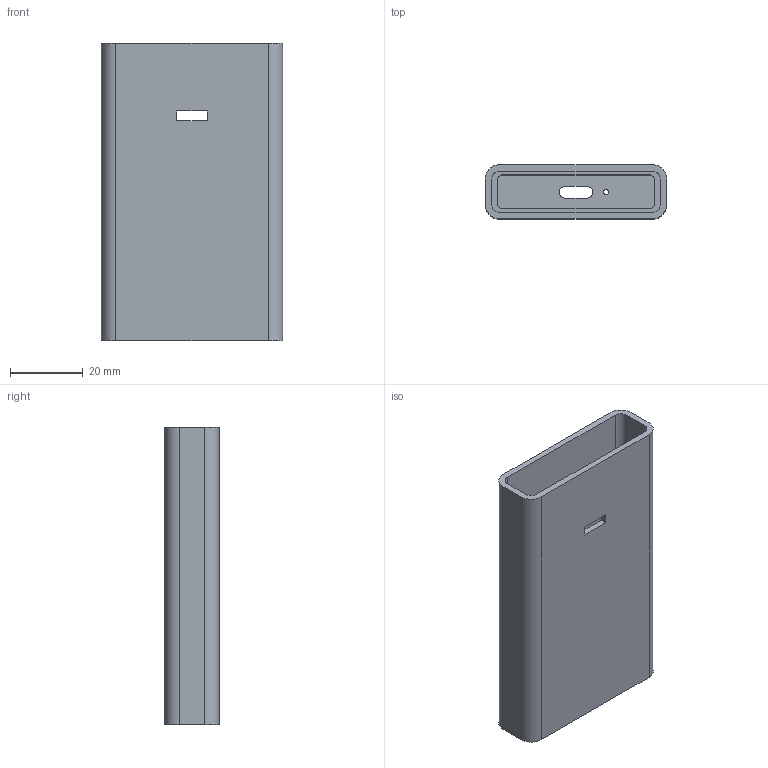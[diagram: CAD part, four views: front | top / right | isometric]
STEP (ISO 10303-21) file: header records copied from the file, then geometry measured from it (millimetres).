
FILE_DESCRIPTION(('Open CASCADE Model'),'2;1');
FILE_NAME('Open CASCADE Shape Model','2026-07-19T18:50:27',('Author'),( 'Open CASCADE'),'Open CASCADE STEP processor 7.9','Open CASCADE 7.9' ,'Unknown');
FILE_SCHEMA(('AUTOMOTIVE_DESIGN { 1 0 10303 214 1 1 1 1 }'));
Length unit declared in the file: millimetre
Products named in the file (1): Open CASCADE STEP translator 7.9 1
Bounding box: 50 x 15 x 82 mm (x, y, z)
Volume: 25090 mm3; surface area: 19969.2 mm2
Topology: 1 solids, 1 shells, 45 faces, 123 edges, 82 vertices
Faces by surface type: plane 28, cylinder 17
Full cylindrical faces by diameter (mm): 1.5 x1
Entity records: 3010 total; most frequent: CARTESIAN_POINT 597, DIRECTION 425, ORIENTED_EDGE 246, PCURVE 246, DEFINITIONAL_REPRESENTATION 246, LINE 237, VECTOR 237, EDGE_CURVE 123
